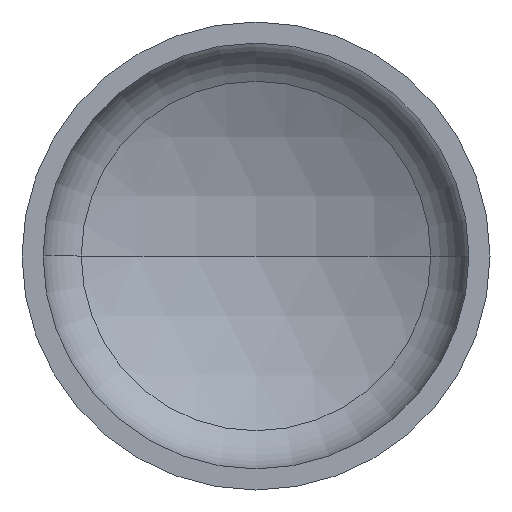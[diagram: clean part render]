
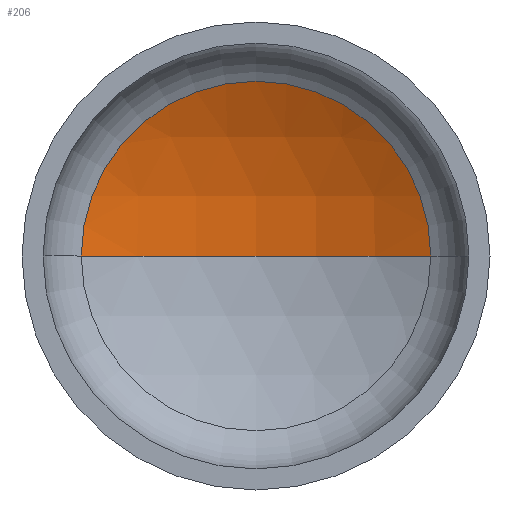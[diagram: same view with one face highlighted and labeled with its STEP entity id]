
A CAD part, front view. The second image highlights one B-rep face of the part: STEP entity #206.
In plain terms, the highlighted spherical face has radius 1280 mm.
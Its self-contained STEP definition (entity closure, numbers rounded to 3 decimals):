
#3 = AXIS2_PLACEMENT_3D ( 'NONE', #190, #402, #297 ) ;
#6 = DIRECTION ( 'NONE',  ( 1., 0., 0. ) ) ;
#9 = AXIS2_PLACEMENT_3D ( 'NONE', #254, #165, #167 ) ;
#19 = ORIENTED_EDGE ( 'NONE', *, *, #90, .T. ) ;
#27 = AXIS2_PLACEMENT_3D ( 'NONE', #164, #197, #267 ) ;
#29 = ORIENTED_EDGE ( 'NONE', *, *, #348, .F. ) ;
#41 = AXIS2_PLACEMENT_3D ( 'NONE', #374, #235, #6 ) ;
#66 = VERTEX_POINT ( 'NONE', #270 ) ;
#79 = VERTEX_POINT ( 'NONE', #316 ) ;
#90 = EDGE_CURVE ( 'NONE', #66, #120, #258, .T. ) ;
#120 = VERTEX_POINT ( 'NONE', #212 ) ;
#131 = ORIENTED_EDGE ( 'NONE', *, *, #346, .T. ) ;
#164 = CARTESIAN_POINT ( 'NONE',  ( 0., -795.388, 0. ) ) ;
#165 = DIRECTION ( 'NONE',  ( 0., 0., -1. ) ) ;
#167 = DIRECTION ( 'NONE',  ( -1., 0., 0. ) ) ;
#190 = CARTESIAN_POINT ( 'NONE',  ( 0., -795.388, 0. ) ) ;
#192 = SPHERICAL_SURFACE ( 'NONE', #27, 1280. ) ;
#197 = DIRECTION ( 'NONE',  ( 0., 0., -1. ) ) ;
#206 = ADVANCED_FACE ( 'NONE', ( #246 ), #192, .F. ) ;
#212 = CARTESIAN_POINT ( 'NONE',  ( -597.333, 336.686, 0. ) ) ;
#227 = CIRCLE ( 'NONE', #9, 1280. ) ;
#235 = DIRECTION ( 'NONE',  ( 0., -1., 0. ) ) ;
#246 = FACE_OUTER_BOUND ( 'NONE', #275, .T. ) ;
#254 = CARTESIAN_POINT ( 'NONE',  ( 0., -795.388, 0. ) ) ;
#258 = CIRCLE ( 'NONE', #41, 597.333 ) ;
#267 = DIRECTION ( 'NONE',  ( -1., 0., 0. ) ) ;
#270 = CARTESIAN_POINT ( 'NONE',  ( 597.333, 336.686, 0. ) ) ;
#275 = EDGE_LOOP ( 'NONE', ( #29, #131, #19 ) ) ;
#297 = DIRECTION ( 'NONE',  ( 1., 0., 0. ) ) ;
#316 = CARTESIAN_POINT ( 'NONE',  ( 0., 484.612, 0. ) ) ;
#337 = CIRCLE ( 'NONE', #3, 1280. ) ;
#346 = EDGE_CURVE ( 'NONE', #79, #66, #227, .T. ) ;
#348 = EDGE_CURVE ( 'NONE', #79, #120, #337, .T. ) ;
#374 = CARTESIAN_POINT ( 'NONE',  ( 0., 336.686, 0. ) ) ;
#402 = DIRECTION ( 'NONE',  ( 0., 0., 1. ) ) ;
